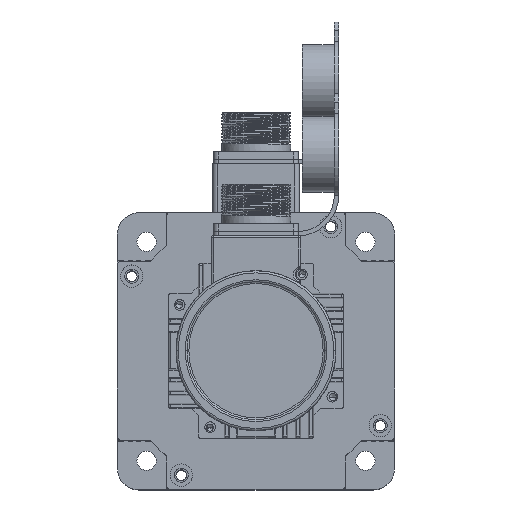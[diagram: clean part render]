
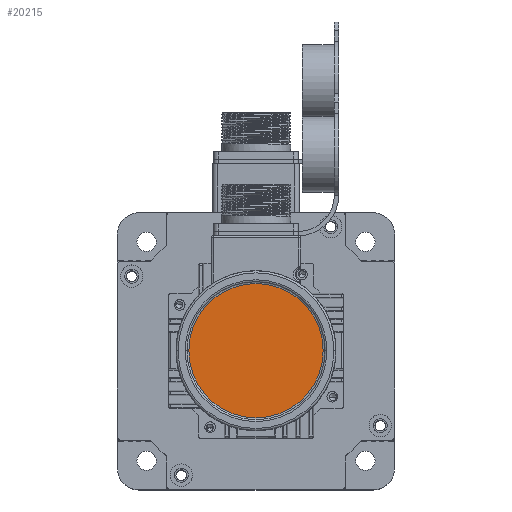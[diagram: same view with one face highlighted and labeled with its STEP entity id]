
A CAD part, top view. The second image highlights one B-rep face of the part: STEP entity #20215.
In plain terms, the highlighted planar face has unit normal (0, 0, 1) as drawn and (0, 0, -1) by its records, which use the part's own axes.
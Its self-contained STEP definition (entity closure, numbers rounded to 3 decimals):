
#1004 = VERTEX_POINT ( 'NONE', #6610 ) ;
#3917 = CARTESIAN_POINT ( 'NONE',  ( 0., 0., -41.5 ) ) ;
#5217 = ORIENTED_EDGE ( 'NONE', *, *, #35229, .T. ) ;
#6610 = CARTESIAN_POINT ( 'NONE',  ( 31.5, 0., -41.5 ) ) ;
#7714 = AXIS2_PLACEMENT_3D ( 'NONE', #8023, #14206, #42079 ) ;
#7911 = DIRECTION ( 'NONE',  ( -1., 0., 0. ) ) ;
#8023 = CARTESIAN_POINT ( 'NONE',  ( 0., 0., -41.5 ) ) ;
#8653 = DIRECTION ( 'NONE',  ( 0., 0., -1. ) ) ;
#10524 = AXIS2_PLACEMENT_3D ( 'NONE', #3917, #31782, #7911 ) ;
#14206 = DIRECTION ( 'NONE',  ( 0., 0., -1. ) ) ;
#17163 = ORIENTED_EDGE ( 'NONE', *, *, #32563, .T. ) ;
#20215 = ADVANCED_FACE ( 'NONE', ( #35379 ), #28054, .T. ) ;
#20761 = CIRCLE ( 'NONE', #40539, 31.5 ) ;
#25351 = CIRCLE ( 'NONE', #10524, 31.5 ) ;
#28054 = PLANE ( 'NONE',  #7714 ) ;
#31782 = DIRECTION ( 'NONE',  ( 0., 0., -1. ) ) ;
#32497 = CARTESIAN_POINT ( 'NONE',  ( 0., 0., -41.5 ) ) ;
#32563 = EDGE_CURVE ( 'NONE', #1004, #34979, #25351, .T. ) ;
#34979 = VERTEX_POINT ( 'NONE', #42785 ) ;
#35229 = EDGE_CURVE ( 'NONE', #34979, #1004, #20761, .T. ) ;
#35379 = FACE_OUTER_BOUND ( 'NONE', #44499, .T. ) ;
#36521 = DIRECTION ( 'NONE',  ( -1., 0., 0. ) ) ;
#40539 = AXIS2_PLACEMENT_3D ( 'NONE', #32497, #8653, #36521 ) ;
#42079 = DIRECTION ( 'NONE',  ( -1., 0., 0. ) ) ;
#42785 = CARTESIAN_POINT ( 'NONE',  ( -31.5, 0., -41.5 ) ) ;
#44499 = EDGE_LOOP ( 'NONE', ( #5217, #17163 ) ) ;
